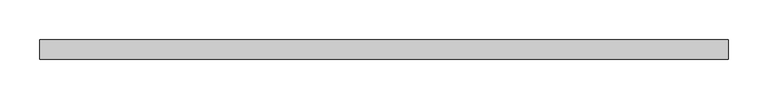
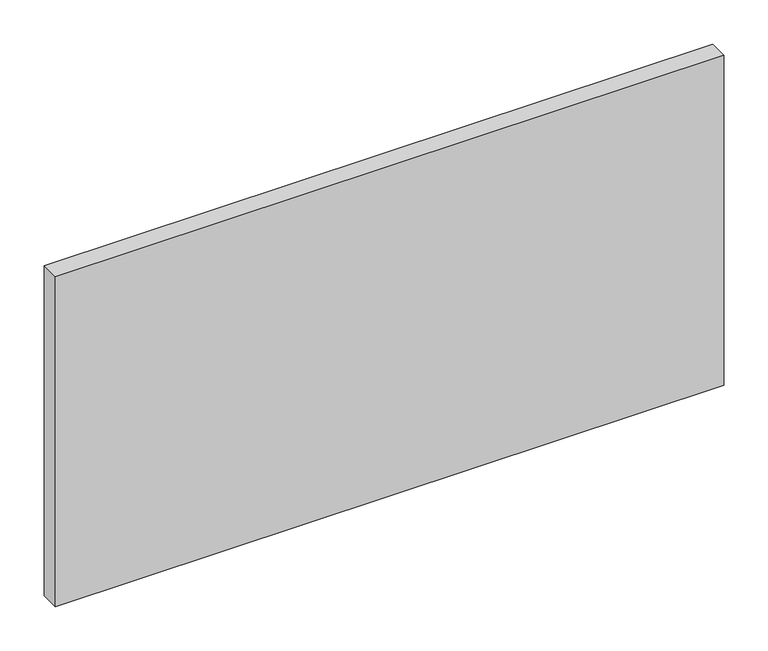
"""IFC4 building model written with IfcOpenShell, lengths in millimetres: plate geometry, 系统嵌板 : 玻璃."""

from ifc_helpers import new_model, si_unit, origin, origin_with_axes, place, context, project, spatial, polyline, outline, extrude, source, transform, mapped, element, save


def plate_da88b804(model_context):
    return source(origin(), model_context, "Body", "SweptSolid", [
        extrude(outline(polyline([(435.8333333, -12.5), (-435.8333333, -12.5), (-435.8333333, 12.5), (435.8333333, 12.5), (435.8333333, -12.5)])), origin_with_axes(), (0.0, 0.0, 1.0), 455.0),
    ])


if __name__ == "__main__":
    model = new_model("IFC4")
    model_context = context("Model", 3, world=origin())
    ifc_project = project(units=[si_unit("LENGTHUNIT", "METRE", prefix="MILLI")], contexts=[model_context])
    site = spatial("IfcSite", under=ifc_project)
    building = spatial("IfcBuilding", under=site)
    placement = place(None, origin())
    plate_shape = plate_da88b804(model_context)
    element("IfcPlate", 1, ObjectType="系统嵌板 : 玻璃", at=placement, inside=building, context=model_context, shape_type="MappedRepresentation", body=[
        mapped(plate_shape, transform((0.0, 0.0, 0.0), x_axis=(1.0, 0.0, 0.0), y_axis=(0.0, 1.0, 0.0), z_axis=(0.0, 0.0, 1.0))),
    ])
    save(model, "model.ifc")
